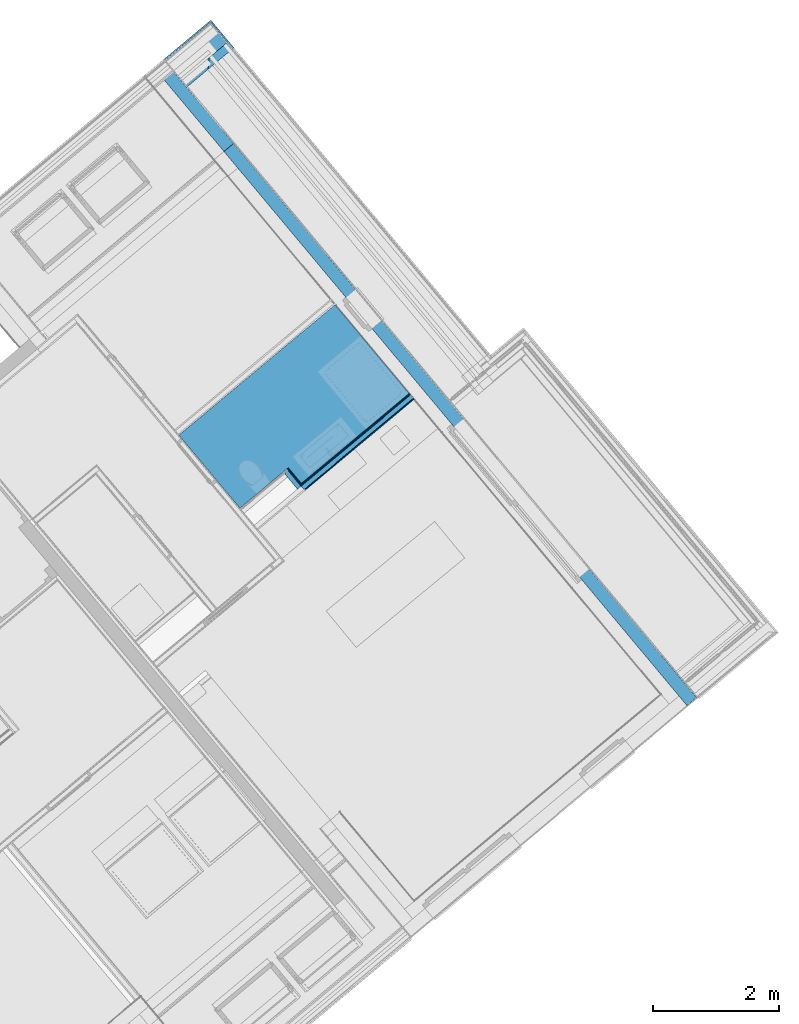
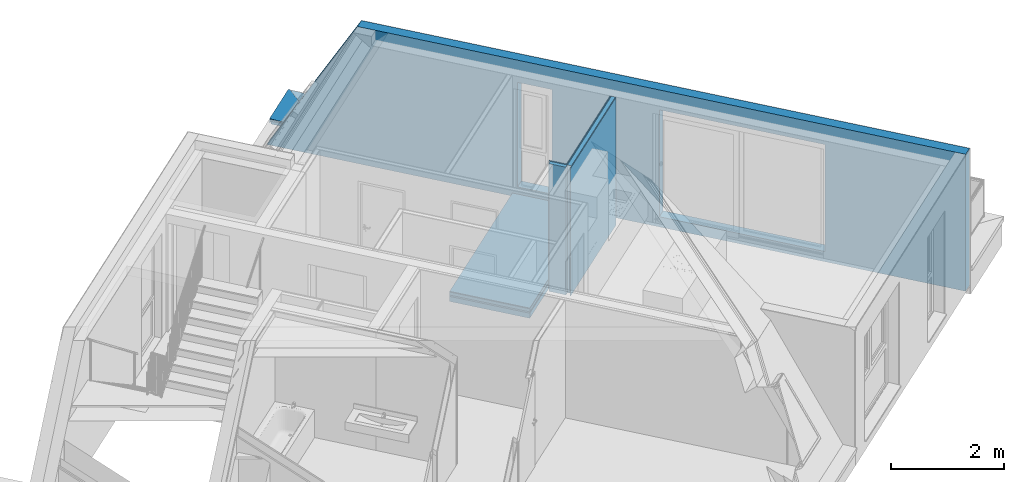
# One storey, part 38 of 61: 15 building element parts, 2 openings, 5 elements without a shape of their own.
"""IFC4 building model written with IfcOpenShell, lengths in metres."""

from ifc_helpers import new_model, entity, si_unit, converted_unit, derived_unit, direction, frame, origin_with_axes, place, context, subcontext, project, spatial, polygons, material, type_object, element, aggregate, save


model = new_model("IFC4")

# Units and contexts
model_context = context("Model", 3, precision=1e-05, world=origin_with_axes(), true_north=direction((0.0, 1.0)))
body_context = subcontext(model_context, "Body", "Model", "MODEL_VIEW")
ifc_project = project(units=[si_unit("LENGTHUNIT", "METRE"), si_unit("AREAUNIT", "SQUARE_METRE"), si_unit("VOLUMEUNIT", "CUBIC_METRE"), converted_unit("PLANEANGLEUNIT", "DEGREE", entity("IfcPlaneAngleMeasure", 0.0174532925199), si_unit("PLANEANGLEUNIT", "RADIAN"), dimensions=[0, 0, 0, 0, 0, 0, 0]), converted_unit("TIMEUNIT", "Year", entity("IfcTimeMeasure", 31556926.0), si_unit("TIMEUNIT", "SECOND"), dimensions=[0, 0, 1, 0, 0, 0, 0]), si_unit("MASSUNIT", "GRAM", prefix="KILO"), si_unit("THERMODYNAMICTEMPERATUREUNIT", "DEGREE_CELSIUS"), si_unit("LUMINOUSINTENSITYUNIT", "LUMEN"), si_unit("ENERGYUNIT", "JOULE", prefix="MEGA"), derived_unit("THERMALCONDUCTANCEUNIT", [(si_unit("POWERUNIT", "WATT"), 1), (si_unit("LENGTHUNIT", "METRE"), -1), (si_unit("THERMODYNAMICTEMPERATUREUNIT", "KELVIN"), -1)]), derived_unit("SPECIFICHEATCAPACITYUNIT", [(si_unit("ENERGYUNIT", "JOULE"), 1), (si_unit("MASSUNIT", "GRAM", prefix="KILO"), -1), (si_unit("THERMODYNAMICTEMPERATUREUNIT", "KELVIN"), -1)]), derived_unit("MASSDENSITYUNIT", [(si_unit("MASSUNIT", "GRAM", prefix="KILO"), 1), (si_unit("VOLUMEUNIT", "CUBIC_METRE"), -1)])], contexts=[model_context])

# Site, building, storey
site_placement = place(None, frame((-0.00153261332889, -0.00661245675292, 0.0), z_axis=(0.0, 0.0, 1.0), x_axis=(1.0, 0.0, 0.0)))
site = spatial("IfcSite", under=ifc_project, at=site_placement, Name="Gelände", CompositionType="ELEMENT")
building_placement = place(site_placement, origin_with_axes())
building = spatial("IfcBuilding", under=site, at=building_placement, Name="Gebäude", CompositionType="ELEMENT")
storey_placement = place(building_placement, frame((0.0, 0.0, 5.7), z_axis=(0.0, 0.0, 1.0), x_axis=(1.0, 0.0, 0.0)))
storey = spatial("IfcBuildingStorey", under=building, at=storey_placement, Name="DG1", CompositionType="ELEMENT", Elevation=5.7)

# Wall, building element parts
wall_type_1 = type_object("IfcWallType", Name="LB 10,5 cm doppelte Vorsatzschale Bad 105", PredefinedType="NOTDEFINED")
wall_1_placement = place(storey_placement, frame((6.81308887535, 23.8632838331, 0.0), z_axis=(0.0, 0.0, 1.0), x_axis=(0.639370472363, -0.768898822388, 0.0)))
wall_1 = element("IfcWall", 1, at=wall_1_placement, inside=storey, type_object=wall_type_1, Name="Wand-004", PredefinedType="NOTDEFINED")
ifc_material_1 = material(Name="Gipskarton")
building_element_part_1_placement = place(wall_1_placement, origin_with_axes())
building_element_part_1 = element("IfcBuildingElementPart", 2, at=building_element_part_1_placement, material=ifc_material_1, Name="Gipskarton", PredefinedType="NOTDEFINED", context=body_context, shape_type="Tessellation", body=[
    polygons([(0.338014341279, 0.09, 0.0), (0.0, 0.09, 0.0), (0.0, 0.105, 0.0), (0.337978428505, 0.105, 0.0), (0.338014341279, 0.09, 2.76), (0.0, 0.09, 2.76), (0.0, 0.105, 2.76), (0.337978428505, 0.105, 2.76)], [[[1, 2, 3, 4]], [[5, 6, 2, 1]], [[3, 2, 6, 7]], [[4, 3, 7, 8]], [[4, 8, 5, 1]], [[8, 7, 6, 5]]], closed=True),
])
building_element_part_2_placement = place(wall_1_placement, origin_with_axes())
building_element_part_2 = element("IfcBuildingElementPart", 3, at=building_element_part_2_placement, material=ifc_material_1, Name="Gipskarton", PredefinedType="NOTDEFINED", context=body_context, shape_type="Tessellation", body=[
    polygons([(0.353050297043, 0.075, 0.0), (0.0, 0.075, 0.0), (0.0, 0.09, 0.0), (0.35301438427, 0.09, 0.0), (0.353050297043, 0.075, 2.76), (0.0, 0.075, 2.76), (0.0, 0.09, 2.76), (0.35301438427, 0.09, 2.76)], [[[1, 2, 3, 4]], [[5, 6, 2, 1]], [[3, 2, 6, 7]], [[4, 3, 7, 8]], [[4, 8, 5, 1]], [[8, 7, 6, 5]]], closed=True),
])
ifc_material_2 = material(Name="Mineralwolle weich")
building_element_part_3_placement = place(wall_1_placement, origin_with_axes())
building_element_part_3 = element("IfcBuildingElementPart", 4, at=building_element_part_3_placement, material=ifc_material_2, Name="Mineralwolle weich", PredefinedType="NOTDEFINED", context=body_context, shape_type="Tessellation", body=[
    polygons([(0.353050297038, 0.075, 0.0), (0.353229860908, 0.0, 0.0), (0.030000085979, 0.0, 0.0), (0.0298205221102, 0.075, 0.0), (0.353050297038, 0.075, 2.76), (0.353229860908, 0.0, 2.76), (0.030000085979, 0.0, 2.76), (0.0298205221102, 0.075, 2.76)], [[[1, 2, 3, 4]], [[2, 1, 5, 6]], [[2, 6, 7, 3]], [[8, 4, 3, 7]], [[5, 1, 4, 8]], [[6, 5, 8, 7]]], closed=True),
])
aggregate(wall_1, [building_element_part_1, building_element_part_2, building_element_part_3])

wall_type_2 = type_object("IfcWallType", Name="LB 13 cm doppelte Vorsatzschale Bad  120", PredefinedType="NOTDEFINED")
wall_2_placement = place(storey_placement, frame((7.01975244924, 23.6147528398, 0.0), z_axis=(0.0, 0.0, 1.0), x_axis=(0.767365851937, 0.641209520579, 0.0)))
wall_2 = element("IfcWall", 5, at=wall_2_placement, inside=storey, type_object=wall_type_2, Name="Wand-013", PredefinedType="NOTDEFINED")
building_element_part_4_placement = place(wall_2_placement, origin_with_axes())
building_element_part_4 = element("IfcBuildingElementPart", 6, at=building_element_part_4_placement, material=ifc_material_1, Name="Gipskarton", PredefinedType="NOTDEFINED", context=body_context, shape_type="Tessellation", body=[
    polygons([(2.33522392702, 0.0, 0.0), (2.33522392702, -0.015, 0.0), (0.10496438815, -0.015, 0.0), (0.105000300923, 0.0, 0.0), (2.33522392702, 0.0, 2.76), (2.33522392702, -0.015, 2.76), (0.10496438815, -0.015, 2.76), (0.105000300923, 0.0, 2.76)], [[[1, 2, 3, 4]], [[2, 1, 5, 6]], [[2, 6, 7, 3]], [[8, 4, 3, 7]], [[5, 1, 4, 8]], [[6, 5, 8, 7]]], closed=True),
])
building_element_part_5_placement = place(wall_2_placement, origin_with_axes())
building_element_part_5 = element("IfcBuildingElementPart", 7, at=building_element_part_5_placement, material=ifc_material_1, Name="Gipskarton", PredefinedType="NOTDEFINED", context=body_context, shape_type="Tessellation", body=[
    polygons([(2.33522392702, -0.015, 0.0), (2.33522392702, -0.03, 0.0), (0.0899284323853, -0.03, 0.0), (0.0899643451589, -0.015, 0.0), (2.33522392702, -0.015, 2.76), (2.33522392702, -0.03, 2.76), (0.0899284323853, -0.03, 2.76), (0.0899643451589, -0.015, 2.76)], [[[1, 2, 3, 4]], [[2, 1, 5, 6]], [[2, 6, 7, 3]], [[8, 4, 3, 7]], [[5, 1, 4, 8]], [[6, 5, 8, 7]]], closed=True),
])
building_element_part_6_placement = place(wall_2_placement, origin_with_axes())
building_element_part_6 = element("IfcBuildingElementPart", 8, at=building_element_part_6_placement, material=ifc_material_2, Name="Mineralwolle weich", PredefinedType="NOTDEFINED", context=body_context, shape_type="Tessellation", body=[
    polygons([(2.33522392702, -0.03, 0.0), (2.33522392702, -0.105, 0.0), (0.0747488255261, -0.105, 0.0), (0.0749283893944, -0.03, 0.0), (2.33522392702, -0.03, 2.76), (2.33522392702, -0.105, 2.76), (0.0747488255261, -0.105, 2.76), (0.0749283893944, -0.03, 2.76)], [[[1, 2, 3, 4]], [[2, 1, 5, 6]], [[2, 6, 7, 3]], [[8, 4, 3, 7]], [[5, 1, 4, 8]], [[6, 5, 8, 7]]], closed=True),
])
ifc_material_3 = material(Name="Gipsputz")
building_element_part_7_placement = place(wall_2_placement, origin_with_axes())
building_element_part_7 = element("IfcBuildingElementPart", 9, at=building_element_part_7_placement, material=ifc_material_3, Name="Gipsputz", PredefinedType="NOTDEFINED", context=body_context, shape_type="Tessellation", body=[
    polygons([(2.33522392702, -0.105, 0.0), (2.33522392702, -0.12, 0.0), (-0.000287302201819, -0.12, 0.0), (-0.000251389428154, -0.105, 0.0), (2.33522392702, -0.105, 2.76), (2.33522392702, -0.12, 2.76), (-0.000287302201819, -0.12, 2.76), (-0.000251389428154, -0.105, 2.76)], [[[1, 2, 3, 4]], [[2, 1, 5, 6]], [[2, 6, 7, 3]], [[8, 4, 3, 7]], [[5, 1, 4, 8]], [[6, 5, 8, 7]]], closed=True),
])
aggregate(wall_2, [building_element_part_4, building_element_part_5, building_element_part_6, building_element_part_7])

# Space
space_placement = place(storey_placement, frame((7.56338673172, 26.606210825, 0.22), z_axis=(0.0, 0.0, 1.0), x_axis=(-0.641209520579, 0.767365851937, 0.0)))
space = spatial("IfcSpace", under=storey, at=space_placement, CompositionType="ELEMENT", PredefinedType="NOTDEFINED")

# Wall, openings, building element part
wall_type_3 = type_object("IfcWallType", Name="AW EG 420", PredefinedType="NOTDEFINED")
wall_3_placement = place(space_placement, frame((4.59470421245, -0.419906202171, -0.22), z_axis=(0.0, 0.0, 1.0), x_axis=(-1.0, 0.0, 0.0)))
wall_3 = element("IfcWall", 10, at=wall_3_placement, inside=space, type_object=wall_type_3, Name="Wand-002", PredefinedType="NOTDEFINED")
opening_1_placement = place(wall_3_placement, frame((5.05174494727, 0.0, 0.22), z_axis=(0.0, 0.0, 1.0), x_axis=(1.0, 0.0, 0.0)))
element("IfcOpeningElement", 11, at=opening_1_placement, cuts=wall_3, Name="Fenster-001", context=body_context, identifier="Reference", shape_type="Tessellation", body=[
    polygons([(-0.325, -0.215, 0.0), (-0.325, -0.215, 2.26), (-0.325, 6.49162461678, 2.26), (-0.325, 6.49162461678, 0.0), (-0.325, -6.91162461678, 0.0), (-0.325, -6.91162461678, 2.26), (0.325, -0.215, 2.26), (0.325, 6.49162461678, 2.26), (0.325, -6.91162461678, 2.26), (0.325, 6.49162461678, 0.0), (0.325, -0.215, 0.0), (0.325, -6.91162461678, 0.0)], [[[1, 2, 3, 4]], [[2, 1, 5, 6]], [[7, 8, 3, 2, 6, 9]], [[8, 10, 4, 3]], [[1, 4, 10, 11, 12, 5]], [[6, 5, 12, 9]], [[7, 11, 10, 8]], [[11, 7, 9, 12]]], closed=True),
])
opening_2_placement = place(wall_3_placement, frame((8.96052367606, 0.0, 0.22), z_axis=(0.0, 0.0, 1.0), x_axis=(1.0, 0.0, 0.0)))
element("IfcOpeningElement", 12, at=opening_2_placement, cuts=wall_3, Name="Tür-001", context=body_context, identifier="Reference", shape_type="Tessellation", body=[
    polygons([(-1.56, -0.215, 2.31), (1.56, -0.215, 2.31), (1.56, 6.49162461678, 2.31), (-1.56, 6.49162461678, 2.31), (1.61, -0.215, -0.22), (-1.61, -0.215, -0.22), (-1.61, -0.215, 2.36), (1.61, -0.215, 2.36), (1.56, -0.215, 0.0), (-1.56, -0.215, 0.0), (1.56, 6.49162461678, 0.0), (-1.56, 6.49162461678, 0.0), (1.61, -6.91162461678, -0.22), (-1.61, -6.91162461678, -0.22), (-1.61, -6.91162461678, 2.36), (1.61, -6.91162461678, 2.36)], [[[1, 2, 3, 4]], [[5, 6, 7, 8], [9, 2, 1, 10]], [[2, 9, 11, 3]], [[3, 11, 12, 4]], [[10, 1, 4, 12]], [[6, 5, 13, 14]], [[7, 6, 14, 15]], [[8, 7, 15, 16]], [[5, 8, 16, 13]], [[9, 10, 12, 11]], [[15, 14, 13, 16]]], closed=True),
])
ifc_material_4 = material(Name="EPS 1")
building_element_part_8_placement = place(wall_3_placement, origin_with_axes())
building_element_part_8 = element("IfcBuildingElementPart", 13, at=building_element_part_8_placement, material=ifc_material_4, Name="EPS 1", PredefinedType="NOTDEFINED", context=body_context, shape_type="Tessellation", body=[
    polygons([(13.1763326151, -0.215, 0.0), (13.1763326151, -0.215, 2.96), (1.70895679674, -0.215, 2.96), (0.0, -0.215, 0.0), (4.72674494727, -0.215, 2.48), (5.37674494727, -0.215, 2.48), (5.37674494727, -0.215, 0.22), (4.72674494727, -0.215, 0.22), (7.40052367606, -0.215, 0.22), (7.40052367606, -0.215, 2.53), (10.5205236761, -0.215, 2.53), (10.5205236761, -0.215, 0.22), (13.1762023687, -0.015, 0.0), (13.1762023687, -0.015, 2.96), (1.70895679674, -0.015, 2.96), (0.0, -0.015, 0.0), (5.37674494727, -0.015, 2.48), (4.72674494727, -0.015, 2.48), (5.37674494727, -0.015, 0.22), (4.72674494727, -0.015, 0.22), (7.40052367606, -0.015, 0.22), (7.40052367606, -0.015, 2.53), (10.5205236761, -0.015, 2.53), (10.5205236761, -0.015, 0.22)], [[[1, 2, 3, 4], [5, 6, 7, 8], [9, 10, 11, 12]], [[13, 14, 2, 1]], [[2, 14, 15, 3]], [[16, 4, 3, 15]], [[13, 1, 4, 16]], [[17, 6, 5, 18]], [[19, 7, 6, 17]], [[20, 8, 7, 19]], [[18, 5, 8, 20]], [[21, 22, 10, 9]], [[22, 23, 11, 10]], [[23, 24, 12, 11]], [[24, 21, 9, 12]], [[14, 13, 16, 15], [19, 17, 18, 20], [21, 24, 23, 22]]], closed=True),
])
aggregate(wall_3, [building_element_part_8])

# Covering, building element parts
covering_type = type_object("IfcCoveringType", Name="DE 01 Decke Wohnung/Wohnung Fließen 220", PredefinedType="NOTDEFINED")
covering_placement = place(storey_placement, frame((5.15478771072, 24.448579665, 0.22), z_axis=(0.0, 0.0, 1.0), x_axis=(1.0, 0.0, 0.0)))
covering = element("IfcCovering", 14, at=covering_placement, inside=storey, type_object=covering_type, Name="Decke-001", PredefinedType="NOTDEFINED")
ifc_material_5 = material(Name="Fliesen")
building_element_part_9_placement = place(covering_placement, origin_with_axes())
building_element_part_9 = element("IfcBuildingElementPart", 15, at=building_element_part_9_placement, material=ifc_material_5, Name="Fliesen", PredefinedType="NOTDEFINED", context=body_context, shape_type="Tessellation", body=[
    polygons([(0.969800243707, -1.16060595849, 0.0), (0.969800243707, -1.16060595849, -0.015), (1.71585376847, -0.537204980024, -0.015), (1.71585376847, -0.537204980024, 0.0), (0.0, 0.0, 0.0), (0.0, 0.0, -0.015), (2.47987817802, 2.07218172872, -0.015), (3.65693583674, 0.663540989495, -0.015), (1.94553838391, -0.766499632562, -0.015), (1.75805597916, -0.54103567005, -0.015), (1.75811086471, -0.540989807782, -0.015), (1.73903554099, -0.518161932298, -0.015), (1.71596857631, -0.537343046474, -0.015), (1.71596857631, -0.537343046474, 0.0), (1.73903554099, -0.518161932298, 0.0), (1.75811086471, -0.540989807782, 0.0), (1.75805597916, -0.54103567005, 0.0), (1.94553838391, -0.766499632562, 0.0), (3.65693583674, 0.663540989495, 0.0), (2.47987817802, 2.07218172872, 0.0)], [[[1, 2, 3, 4]], [[2, 1, 5, 6]], [[3, 2, 6, 7, 8, 9, 10, 11, 12, 13]], [[13, 14, 4, 3]], [[1, 4, 14, 15, 16, 17, 18, 19, 20, 5]], [[6, 5, 20, 7]], [[19, 8, 7, 20]], [[18, 9, 8, 19]], [[9, 18, 17, 10]], [[10, 17, 16, 11]], [[16, 15, 12, 11]], [[14, 13, 12, 15]]], closed=True),
])
ifc_material_6 = material(Name="Estrich")
building_element_part_10_placement = place(covering_placement, origin_with_axes())
building_element_part_10 = element("IfcBuildingElementPart", 16, at=building_element_part_10_placement, material=ifc_material_6, Name="Estrich", PredefinedType="NOTDEFINED", context=body_context, shape_type="Tessellation", body=[
    polygons([(0.969800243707, -1.16060595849, -0.015), (0.969800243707, -1.16060595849, -0.08), (1.71585376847, -0.537204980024, -0.08), (1.71585376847, -0.537204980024, -0.015), (0.0, 0.0, -0.015), (0.0, 0.0, -0.08), (2.47987817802, 2.07218172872, -0.08), (3.65693583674, 0.663540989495, -0.08), (1.94553838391, -0.766499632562, -0.08), (1.75805597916, -0.54103567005, -0.08), (1.75811086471, -0.540989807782, -0.08), (1.73903554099, -0.518161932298, -0.08), (1.71596857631, -0.537343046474, -0.08), (1.71596857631, -0.537343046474, -0.015), (1.73903554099, -0.518161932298, -0.015), (1.75811086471, -0.540989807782, -0.015), (1.75805597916, -0.54103567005, -0.015), (1.94553838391, -0.766499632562, -0.015), (3.65693583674, 0.663540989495, -0.015), (2.47987817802, 2.07218172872, -0.015)], [[[1, 2, 3, 4]], [[2, 1, 5, 6]], [[3, 2, 6, 7, 8, 9, 10, 11, 12, 13]], [[13, 14, 4, 3]], [[1, 4, 14, 15, 16, 17, 18, 19, 20, 5]], [[6, 5, 20, 7]], [[19, 8, 7, 20]], [[18, 9, 8, 19]], [[9, 18, 17, 10]], [[10, 17, 16, 11]], [[16, 15, 12, 11]], [[14, 13, 12, 15]]], closed=True),
])
ifc_material_7 = material(Name="Trittschalldämmung")
building_element_part_11_placement = place(covering_placement, origin_with_axes())
building_element_part_11 = element("IfcBuildingElementPart", 17, at=building_element_part_11_placement, material=ifc_material_7, Name="Trittschalldämmung", PredefinedType="NOTDEFINED", context=body_context, shape_type="Tessellation", body=[
    polygons([(0.969800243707, -1.16060595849, -0.08), (0.969800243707, -1.16060595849, -0.11), (1.71585376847, -0.537204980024, -0.11), (1.71585376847, -0.537204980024, -0.08), (0.0, 0.0, -0.08), (0.0, 0.0, -0.11), (2.47987817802, 2.07218172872, -0.11), (3.65693583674, 0.663540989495, -0.11), (1.94553838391, -0.766499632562, -0.11), (1.75805597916, -0.54103567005, -0.11), (1.75811086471, -0.540989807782, -0.11), (1.73903554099, -0.518161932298, -0.11), (1.71596857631, -0.537343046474, -0.11), (1.71596857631, -0.537343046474, -0.08), (1.73903554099, -0.518161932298, -0.08), (1.75811086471, -0.540989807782, -0.08), (1.75805597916, -0.54103567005, -0.08), (1.94553838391, -0.766499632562, -0.08), (3.65693583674, 0.663540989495, -0.08), (2.47987817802, 2.07218172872, -0.08)], [[[1, 2, 3, 4]], [[2, 1, 5, 6]], [[3, 2, 6, 7, 8, 9, 10, 11, 12, 13]], [[13, 14, 4, 3]], [[1, 4, 14, 15, 16, 17, 18, 19, 20, 5]], [[6, 5, 20, 7]], [[19, 8, 7, 20]], [[18, 9, 8, 19]], [[9, 18, 17, 10]], [[10, 17, 16, 11]], [[16, 15, 12, 11]], [[14, 13, 12, 15]]], closed=True),
])
ifc_material_8 = material(Name="Schüttung")
building_element_part_12_placement = place(covering_placement, origin_with_axes())
building_element_part_12 = element("IfcBuildingElementPart", 18, at=building_element_part_12_placement, material=ifc_material_8, Name="Schüttung", PredefinedType="NOTDEFINED", context=body_context, shape_type="Tessellation", body=[
    polygons([(0.969800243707, -1.16060595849, -0.11), (0.969800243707, -1.16060595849, -0.22), (1.71585376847, -0.537204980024, -0.22), (1.71585376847, -0.537204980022, -0.11), (0.0, 0.0, -0.11), (0.0, 0.0, -0.22), (2.47987817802, 2.07218172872, -0.22), (3.65693583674, 0.663540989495, -0.22), (1.94553838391, -0.766499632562, -0.22), (1.75805597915, -0.541035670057, -0.22), (1.75811086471, -0.540989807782, -0.22), (1.73903554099, -0.518161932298, -0.22), (1.71596857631, -0.537343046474, -0.22), (1.71596857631, -0.537343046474, -0.11), (1.73903554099, -0.518161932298, -0.11), (1.75811086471, -0.540989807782, -0.11), (1.75805597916, -0.54103567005, -0.11), (1.94553838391, -0.766499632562, -0.11), (3.65693583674, 0.663540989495, -0.11), (2.47987817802, 2.07218172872, -0.11)], [[[1, 2, 3, 4]], [[2, 1, 5, 6]], [[3, 2, 6, 7, 8, 9, 10, 11, 12, 13]], [[3, 13, 14, 4]], [[1, 4, 14, 15, 16, 17, 18, 19, 20, 5]], [[6, 5, 20, 7]], [[19, 8, 7, 20]], [[18, 9, 8, 19]], [[9, 18, 17, 10]], [[11, 10, 17, 16]], [[12, 11, 16, 15]], [[14, 13, 12, 15]]], closed=True),
])
aggregate(covering, [building_element_part_9, building_element_part_10, building_element_part_11, building_element_part_12])

# Wall, building element parts
wall_type_4 = type_object("IfcWallType", Name="Bauteil - Attika Terrasse 1.DG 574 x 410", PredefinedType="NOTDEFINED")
wall_4_placement = place(storey_placement, frame((5.07730037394, 30.2362941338, -0.2), z_axis=(0.0, 0.0, 1.0), x_axis=(0.767365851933, 0.641209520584, 0.0)))
wall_4 = element("IfcWall", 19, at=wall_4_placement, inside=storey, type_object=wall_type_4, Name="Wand-002", PredefinedType="NOTDEFINED")
ifc_material_9 = material(Name="Brettschichtholz")
building_element_part_13_placement = place(wall_4_placement, origin_with_axes())
building_element_part_13 = element("IfcBuildingElementPart", 20, at=building_element_part_13_placement, material=ifc_material_9, Name="Brettschichtholz", PredefinedType="NOTDEFINED", context=body_context, shape_type="Tessellation", body=[
    polygons([(0.938191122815, -0.200000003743, 0.519224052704), (0.938191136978, -0.200000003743, 0.559999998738), (0.0, -0.200000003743, 0.559999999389), (0.0, -0.200000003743, 0.500000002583), (0.938191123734, -0.200000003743, 0.499999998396), (0.938191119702, -0.200000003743, 0.50905023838), (0.938191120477, -0.200000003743, 0.511361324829), (0.93819099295, -0.159999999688, 0.559999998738), (0.938189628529, 0.214999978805, 0.519224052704), (0.938189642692, 0.214999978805, 0.559999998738), (0.938189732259, 0.190124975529, 0.559999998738), (0.9381899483, 0.130124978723, 0.559999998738), (0.938190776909, -0.100000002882, 0.559999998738), (0.0, -0.159999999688, 0.559999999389), (0.0, 0.130124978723, 0.559999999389), (0.0, 0.190124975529, 0.559999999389), (0.0, 0.214999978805, 0.559999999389), (0.0, 0.214999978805, 0.499999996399), (0.0, -0.100000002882, 0.559999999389), (0.938189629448, 0.214999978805, 0.499999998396), (0.938189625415, 0.214999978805, 0.50905023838), (0.938189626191, 0.214999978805, 0.511361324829)], [[[1, 2, 3, 4, 5, 6, 7]], [[8, 2, 1, 9, 10, 11, 12, 13]], [[2, 8, 14, 3]], [[15, 16, 17, 18, 4, 3, 14, 19]], [[18, 20, 5, 4]], [[21, 6, 5, 20]], [[22, 7, 6, 21]], [[9, 1, 7, 22]], [[10, 9, 22, 21, 20, 18, 17]], [[11, 10, 17, 16]], [[12, 11, 16, 15]], [[13, 12, 15, 19]], [[8, 13, 19, 14]]], closed=True),
])
ifc_material_10 = material(Name="Holzwerkstoff")
building_element_part_14_placement = place(wall_4_placement, origin_with_axes())
building_element_part_14 = element("IfcBuildingElementPart", 21, at=building_element_part_14_placement, material=ifc_material_10, Name="Holzwerkstoff", PredefinedType="NOTDEFINED", context=body_context, shape_type="Tessellation", body=[
    polygons([(0.0, -0.329999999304, 0.567947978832), (0.0, -0.160110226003, 0.573880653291), (0.563080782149, -0.160110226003, 0.573880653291), (0.393191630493, -0.329999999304, 0.567947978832), (0.0, -0.330698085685, 0.587938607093), (0.0, 0.239276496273, 0.608570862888), (0.0, 0.239999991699, 0.587852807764), (0.0, 0.189984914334, 0.586106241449), (0.0, 0.130124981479, 0.584015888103), (0.0, -0.100000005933, 0.575979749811), (0.62319079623, -0.100000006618, 0.575979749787), (0.563081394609, -0.330207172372, 0.573880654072), (0.623191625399, -0.330280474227, 0.575979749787), (0.853316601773, -0.330561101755, 0.584015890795), (0.913176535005, -0.33063409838, 0.586106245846), (0.963191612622, -0.33069508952, 0.587852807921), (0.963188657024, -0.330698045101, 0.587937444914), (0.962466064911, 0.239276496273, 0.608570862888), (0.963186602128, 0.239997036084, 0.587937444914), (0.963189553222, 0.239999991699, 0.587852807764), (0.913174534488, 0.189984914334, 0.586106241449), (0.853314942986, 0.130124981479, 0.584015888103)], [[[1, 2, 3, 4]], [[1, 5, 6, 7, 8, 9, 10, 2]], [[2, 10, 11, 3]], [[12, 4, 3]], [[5, 1, 4, 12, 13, 14, 15, 16, 17]], [[6, 5, 17, 18]], [[7, 6, 18, 19, 20]], [[8, 7, 20, 21]], [[9, 8, 21, 22]], [[10, 9, 22, 11]], [[13, 12, 3, 11]], [[14, 13, 11, 22]], [[22, 21, 15, 14]], [[21, 20, 16, 15]], [[20, 19, 17, 16]], [[19, 18, 17]]], closed=True),
])
ifc_material_11 = material(Name="Stahl")
building_element_part_15_placement = place(wall_4_placement, origin_with_axes())
building_element_part_15 = element("IfcBuildingElementPart", 22, at=building_element_part_15_placement, material=ifc_material_11, Name="Stahl", PredefinedType="NOTDEFINED", context=body_context, shape_type="Tessellation", body=[
    polygons([(0.392097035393, -0.331094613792, 0.488695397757), (0.0, -0.331094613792, 0.488695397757), (0.0, -0.321878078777, 0.497911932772), (0.401313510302, -0.321878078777, 0.497911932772), (0.394408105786, -0.328783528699, 0.49100648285), (0.0, -0.332051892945, 0.489652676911), (0.39305431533, -0.332051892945, 0.489652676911), (0.0, -0.332051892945, 0.589243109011), (0.0, 0.241500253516, 0.610006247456), (0.0, 0.241500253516, 0.510007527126), (0.0, 0.240542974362, 0.509050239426), (0.0, 0.231373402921, 0.518219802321), (0.0, 0.232283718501, 0.519224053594), (0.0, 0.240146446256, 0.51136132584), (0.0, 0.240152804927, 0.608602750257), (0.0, 0.239276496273, 0.608570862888), (0.0, -0.330698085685, 0.587937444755), (0.0, -0.330698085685, 0.491006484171), (0.0, -0.32288233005, 0.498822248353), (0.400309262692, -0.32288233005, 0.498822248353), (0.39440811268, -0.330698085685, 0.491006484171), (0.401313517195, -0.323792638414, 0.497911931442), (0.394408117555, -0.332051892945, 0.49100648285), (0.392493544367, -0.332051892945, 0.491006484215), (0.392493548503, -0.332051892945, 0.498822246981), (0.392493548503, -0.332051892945, 0.499999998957), (0.392493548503, -0.332051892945, 0.50905024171), (0.392493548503, -0.332051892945, 0.511361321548), (0.392493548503, -0.332051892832, 0.519224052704), (0.392493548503, -0.332051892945, 0.559999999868), (0.392493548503, -0.332051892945, 0.567947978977), (0.392493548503, -0.332051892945, 0.573880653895), (0.392493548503, -0.332051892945, 0.575979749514), (0.392493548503, -0.332051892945, 0.584015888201), (0.392493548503, -0.332051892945, 0.586106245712), (0.392493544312, -0.332051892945, 0.587938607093), (0.428530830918, -0.332051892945, 0.589243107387), (0.962466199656, 0.201849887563, 0.608570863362), (0.963342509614, 0.202730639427, 0.608602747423), (0.964689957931, 0.202730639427, 0.608602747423), (0.964689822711, 0.241500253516, 0.610006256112), (0.964689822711, 0.241500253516, 0.510007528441), (0.963732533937, 0.240542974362, 0.50905023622), (0.964689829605, 0.239585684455, 0.510007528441), (0.964689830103, 0.238231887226, 0.511361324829), (0.963336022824, 0.23823188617, 0.511361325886), (0.956477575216, 0.231373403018, 0.518219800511), (0.955473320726, 0.232283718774, 0.519224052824), (0.963336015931, 0.240146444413, 0.511361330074), (0.964689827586, 0.240146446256, 0.51136132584), (0.964689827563, 0.240152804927, 0.608602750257), (0.963342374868, 0.240152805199, 0.608602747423), (0.962466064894, 0.239276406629, 0.608570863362), (0.392493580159, -0.330698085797, 0.587937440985), (0.392493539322, -0.330665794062, 0.587938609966), (0.392493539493, -0.330698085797, 0.491006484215), (0.392493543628, -0.330698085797, 0.586106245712), (0.392493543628, -0.330698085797, 0.584015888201), (0.392493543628, -0.330698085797, 0.575979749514), (0.392493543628, -0.330698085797, 0.573880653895), (0.392493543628, -0.330698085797, 0.567947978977), (0.392493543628, -0.330698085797, 0.559999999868), (0.392493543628, -0.330698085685, 0.519224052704), (0.392493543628, -0.330698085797, 0.511361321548), (0.392493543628, -0.330698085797, 0.50905024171), (0.392493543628, -0.330698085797, 0.499999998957), (0.392493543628, -0.330698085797, 0.498822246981)], [[[1, 2, 3, 4, 5]], [[6, 2, 1, 7]], [[2, 6, 8, 9, 10, 11, 12, 13, 14, 15, 16, 17, 18, 19, 3]], [[3, 19, 20, 4]], [[21, 5, 4, 22]], [[1, 5, 21, 23, 7]], [[8, 6, 7, 23, 24, 25, 26, 27, 28, 29, 30, 31, 32, 33, 34, 35, 36, 37]], [[9, 8, 37, 38, 39, 40, 41]], [[10, 9, 41, 42]], [[11, 10, 42, 43]], [[12, 11, 43, 44, 45, 46, 47]], [[13, 12, 47, 48]], [[14, 13, 48, 49]], [[15, 14, 49, 50, 51, 52]], [[16, 15, 52, 53]], [[54, 17, 16, 53, 55]], [[56, 18, 17, 54, 57, 58, 59, 60, 61, 62, 63, 64, 65, 66, 67]], [[19, 18, 56, 21, 22, 20]], [[4, 20, 22]], [[56, 24, 23, 21]], [[56, 67, 25, 24]], [[25, 67, 66, 26]], [[26, 66, 65, 27]], [[27, 65, 64, 28]], [[29, 28, 64, 63]], [[30, 29, 63, 62]], [[31, 30, 62, 61]], [[32, 31, 61, 60]], [[33, 32, 60, 59]], [[34, 33, 59, 58]], [[35, 34, 58, 57]], [[36, 35, 57, 54]], [[54, 55, 53, 38, 37, 36]], [[38, 53, 52, 39]], [[39, 52, 51, 40]], [[41, 40, 51, 50, 45, 44, 42]], [[44, 43, 42]], [[46, 45, 50, 49]], [[47, 46, 49, 48]]], closed=True),
])
aggregate(wall_4, [building_element_part_13, building_element_part_14, building_element_part_15])

save(model, "model.ifc")
